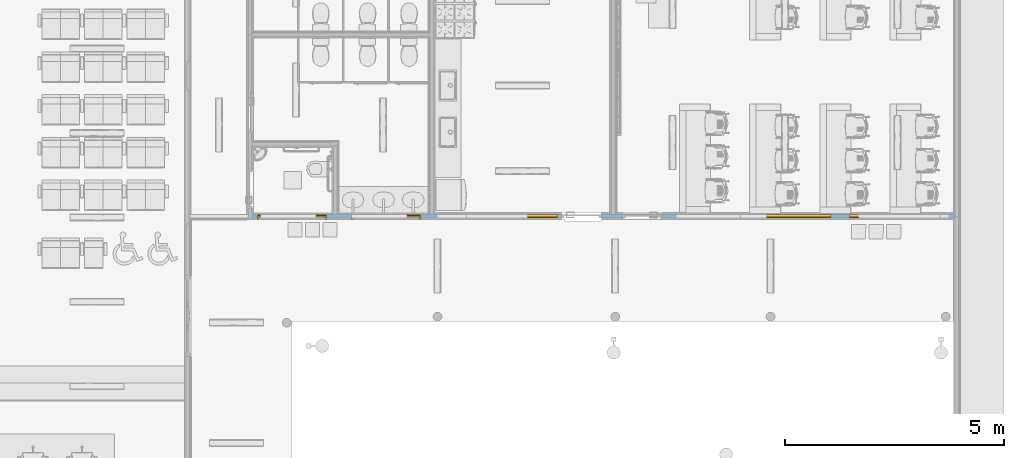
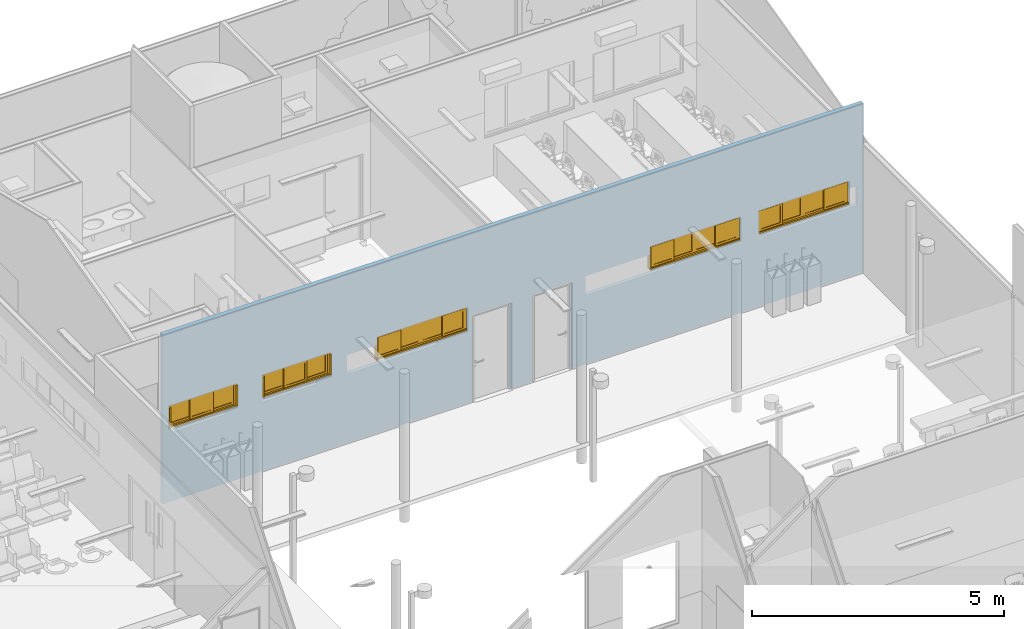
# One storey, part 38 of 155: 5 windows, 12 openings, plus 1 element that does not belong to this part.
"""IFC2X3 building model written with IfcOpenShell, lengths in metres."""

from ifc_helpers import new_model, entity, si_unit, converted_unit, derived_unit, direction, frame, frame_2d, origin, origin_2d_with_axis, place, context, subcontext, project, spatial, polyline, rectangle, outline, extrude, source, transform, mapped, material, material_list, layer, layer_set, layer_usage, type_object, type_shapes, element, fill, save


model = new_model("IFC2X3")

# Units and contexts
model_context = context("Model", 3, precision=1e-05, world=origin(), true_north=direction((6.12303176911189e-17, 1.0)))
body_context = subcontext(model_context, "Body", "Model", "MODEL_VIEW")
ifc_project = project(units=[si_unit("LENGTHUNIT", "METRE"), si_unit("AREAUNIT", "SQUARE_METRE"), si_unit("VOLUMEUNIT", "CUBIC_METRE"), converted_unit("PLANEANGLEUNIT", "DEGREE", entity("IfcRatioMeasure", 0.0174532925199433), si_unit("PLANEANGLEUNIT", "RADIAN"), dimensions=[0, 0, 0, 0, 0, 0, 0]), si_unit("MASSUNIT", "GRAM", prefix="KILO"), derived_unit("MASSDENSITYUNIT", [(si_unit("MASSUNIT", "GRAM", prefix="KILO"), 1), (si_unit("LENGTHUNIT", "METRE"), -3)]), si_unit("TIMEUNIT", "SECOND"), si_unit("FREQUENCYUNIT", "HERTZ"), si_unit("THERMODYNAMICTEMPERATUREUNIT", "DEGREE_CELSIUS"), derived_unit("THERMALTRANSMITTANCEUNIT", [(si_unit("MASSUNIT", "GRAM", prefix="KILO"), 1), (si_unit("THERMODYNAMICTEMPERATUREUNIT", "KELVIN"), -1), (si_unit("TIMEUNIT", "SECOND"), -3)]), derived_unit("VOLUMETRICFLOWRATEUNIT", [(si_unit("LENGTHUNIT", "METRE"), 3), (si_unit("TIMEUNIT", "SECOND"), -1)]), si_unit("ELECTRICCURRENTUNIT", "AMPERE"), si_unit("ELECTRICVOLTAGEUNIT", "VOLT"), si_unit("POWERUNIT", "WATT"), si_unit("FORCEUNIT", "NEWTON", prefix="KILO"), si_unit("ILLUMINANCEUNIT", "LUX"), si_unit("LUMINOUSFLUXUNIT", "LUMEN"), si_unit("LUMINOUSINTENSITYUNIT", "CANDELA"), derived_unit("USERDEFINED", [(si_unit("MASSUNIT", "GRAM", prefix="KILO"), -1), (si_unit("LENGTHUNIT", "METRE"), -2), (si_unit("TIMEUNIT", "SECOND"), 3), (si_unit("LUMINOUSFLUXUNIT", "LUMEN"), 1)]), derived_unit("LINEARVELOCITYUNIT", [(si_unit("LENGTHUNIT", "METRE"), 1), (si_unit("TIMEUNIT", "SECOND"), -1)]), si_unit("PRESSUREUNIT", "PASCAL"), derived_unit("USERDEFINED", [(si_unit("LENGTHUNIT", "METRE"), -2), (si_unit("MASSUNIT", "GRAM", prefix="KILO"), 1), (si_unit("TIMEUNIT", "SECOND"), -2)])], contexts=[model_context])

# Site, building, storey
site_placement = place(None, frame((26.9889013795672, -17.5624287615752, 0.0)))
site = spatial("IfcSite", under=ifc_project, at=site_placement, Name="Default", CompositionType="ELEMENT")
building_placement = place(site_placement, origin())
building = spatial("IfcBuilding", under=site, at=building_placement, Name="C. C. L. Monsenhor Antônio Sampaio", CompositionType="ELEMENT")
storey_placement = place(building_placement, frame((0.0, 0.0, 1.19999999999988)))
storey = spatial("IfcBuildingStorey", under=building, at=storey_placement, Name="Nível 1.2", CompositionType="ELEMENT", Elevation=1.19999999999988)

# Wall, openings, windows
ifc_material_1 = material(Name="ALVENARIA")
ifc_layer = layer(ifc_material_1, 0.09)
ifc_layer_set = layer_set([ifc_layer], Name="Parede básica:ENucleo parede 15cm")
ifc_layer_usage = layer_usage(ifc_layer_set, "AXIS2", "POSITIVE", -0.045)
wall_type = type_object("IfcWallType", Name="Parede básica:ENucleo parede 15cm", PredefinedType="STANDARD", material=ifc_layer_set)
wall_placement = place(storey_placement, frame((-4.45055229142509, -16.8280663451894, 0.0)))
wall = element("IfcWallStandardCase", 1, at=wall_placement, inside=storey, type_object=wall_type, material=ifc_layer_usage, Name="Parede básica:ENucleo parede 15cm", ObjectType="Parede básica:ENucleo parede 15cm", context=body_context, shape_type="SweptSolid", body=[
    extrude(rectangle(XDim=16.0599999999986, YDim=0.0900000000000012, at=frame_2d((8.02999999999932, 6.59194920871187e-17), x_axis=(-1.0, 0.0))), origin(), (0.0, 0.0, 1.0), 4.10000000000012),
])
opening_1_placement = place(wall_placement, frame((7.08141826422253, -0.0449999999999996, 0.0)))
element("IfcOpeningElement", 2, at=opening_1_placement, cuts=wall, Name="Porta levantamento:90 x 211 AZUL:1", ObjectType="Opening", context=body_context, shape_type="SweptSolid", body=[
    extrude(rectangle(XDim=2.09999999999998, YDim=0.9, at=frame_2d((1.04999999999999, 0.45), x_axis=(1.0, 0.0))), frame((0.0, 0.0, 0.0), z_axis=(0.0, 1.0, 0.0), x_axis=(0.0, 0.0, 1.0)), (0.0, 0.0, 1.0), 0.09),
])
opening_2_placement = place(wall_placement, frame((8.47141826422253, -0.0449999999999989, 0.0)))
element("IfcOpeningElement", 3, at=opening_2_placement, cuts=wall, Name="Porta levantamento:90 x 211 AZUL:1", ObjectType="Opening", context=body_context, shape_type="SweptSolid", body=[
    extrude(rectangle(XDim=2.09999999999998, YDim=0.9, at=frame_2d((1.04999999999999, 0.450000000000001), x_axis=(1.0, 0.0))), frame((0.0, 0.0, 0.0), z_axis=(0.0, 1.0, 0.0), x_axis=(0.0, 0.0, 1.0)), (0.0, 0.0, 1.0), 0.09),
])
opening_3_placement = place(wall_placement, frame((1.70000268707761, 0.0449999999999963, 1.76500000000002)))
opening_3 = element("IfcOpeningElement", 4, at=opening_3_placement, cuts=wall, Name="Janela 150x1:150 x 50:1", ObjectType="Opening", context=body_context, shape_type="SweptSolid", body=[
    extrude(rectangle(XDim=0.570000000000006, YDim=1.56999999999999, at=frame_2d((0.285000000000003, 0.784999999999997), x_axis=(1.0, 0.0))), frame((0.0, 0.0, 0.0), z_axis=(0.0, -1.0, 0.0), x_axis=(0.0, 0.0, 1.0)), (0.0, 0.0, 1.0), 0.09),
])
opening_4_placement = place(wall_placement, frame((4.45055229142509, 16.8280663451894, 0.0)))
element("IfcOpeningElement", 5, at=opening_4_placement, cuts=wall, Name="Parede básica:ENucleo parede 15cm", ObjectType="Opening", context=body_context, shape_type="SweptSolid", body=[
    extrude(rectangle(XDim=0.47000000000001, YDim=1.26999999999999, at=frame_2d((2.77555756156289e-16, 0.0), x_axis=(0.0, 1.0))), frame((-3.6255522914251, -18.3070663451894, 1.90000000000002), z_axis=(0.0, 1.0, 0.0), x_axis=(-1.0, 0.0, 0.0)), (0.0, 0.0, 1.0), 3.048),
])
opening_5_placement = place(wall_placement, frame((3.8500053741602, 0.0449999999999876, 1.76500000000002)))
opening_5 = element("IfcOpeningElement", 6, at=opening_5_placement, cuts=wall, Name="Janela 150x1:150 x 50:1", ObjectType="Opening", context=body_context, shape_type="SweptSolid", body=[
    extrude(rectangle(XDim=0.570000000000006, YDim=1.56999999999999, at=frame_2d((0.285000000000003, 0.784999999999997), x_axis=(1.0, 0.0))), frame((0.0, 0.0, 0.0), z_axis=(0.0, -1.0, 0.0), x_axis=(0.0, 0.0, 1.0)), (0.0, 0.0, 1.0), 0.09),
])
opening_6_placement = place(wall_placement, frame((4.45055229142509, 16.8280663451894, 0.0)))
element("IfcOpeningElement", 7, at=opening_6_placement, cuts=wall, Name="Parede básica:ENucleo parede 15cm", ObjectType="Opening", context=body_context, shape_type="SweptSolid", body=[
    extrude(rectangle(XDim=0.47000000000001, YDim=1.26999999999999, at=frame_2d((2.22044604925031e-16, 0.0), x_axis=(0.0, 1.0))), frame((-1.5455522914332, -18.3070663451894, 1.90000000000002), z_axis=(0.0, 1.0, 0.0), x_axis=(-1.0, 0.0, 0.0)), (0.0, 0.0, 1.0), 3.048),
])
opening_7_placement = place(wall_placement, frame((6.97641826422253, 0.0449999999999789, 1.76500000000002)))
opening_7 = element("IfcOpeningElement", 8, at=opening_7_placement, cuts=wall, Name="Janela 200x110:200 x 50:1", ObjectType="Opening", context=body_context, shape_type="SweptSolid", body=[
    extrude(rectangle(XDim=0.570000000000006, YDim=2.07, at=frame_2d((0.285000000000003, 1.035), x_axis=(1.0, 0.0))), frame((0.0, 0.0, 0.0), z_axis=(0.0, -1.0, 0.0), x_axis=(0.0, 0.0, 1.0)), (0.0, 0.0, 1.0), 0.09),
])
opening_8_placement = place(wall_placement, frame((4.45055229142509, 16.8280663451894, 0.0)))
element("IfcOpeningElement", 9, at=opening_8_placement, cuts=wall, Name="Parede básica:ENucleo parede 15cm", ObjectType="Opening", context=body_context, shape_type="SweptSolid", body=[
    extrude(rectangle(XDim=0.470000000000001, YDim=2.06999999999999, at=frame_2d((0.0, 0.0), x_axis=(0.0, 1.0))), frame((0.811164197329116, -18.3070663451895, 1.90000000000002), z_axis=(0.0, 1.0, 0.0), x_axis=(-1.0, 0.0, 0.0)), (0.0, 0.0, 1.0), 3.048),
])
opening_9_placement = place(wall_placement, frame((15.7251682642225, 0.0449999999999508, 1.76500000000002)))
opening_9 = element("IfcOpeningElement", 10, at=opening_9_placement, cuts=wall, Name="Janela 200x110:200 x 50:1", ObjectType="Opening", context=body_context, shape_type="SweptSolid", body=[
    extrude(rectangle(XDim=0.570000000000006, YDim=2.07, at=frame_2d((0.285000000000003, 1.035), x_axis=(1.0, 0.0))), frame((0.0, 0.0, 0.0), z_axis=(0.0, -1.0, 0.0), x_axis=(0.0, 0.0, 1.0)), (0.0, 0.0, 1.0), 0.09),
])
opening_10_placement = place(wall_placement, frame((4.45055229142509, 16.8280663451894, 0.0)))
element("IfcOpeningElement", 11, at=opening_10_placement, cuts=wall, Name="Parede básica:ENucleo parede 15cm", ObjectType="Opening", context=body_context, shape_type="SweptSolid", body=[
    extrude(rectangle(XDim=0.470000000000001, YDim=2.06999999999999, at=origin_2d_with_axis()), frame((10.4391494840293, -18.3970663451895, 1.90000000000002), z_axis=(0.0, 1.0, 0.0), x_axis=(0.0, 0.0, 1.0)), (0.0, 0.0, 1.0), 3.048),
])
opening_11_placement = place(wall_placement, frame((13.2351682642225, 0.0449999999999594, 1.76500000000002)))
opening_11 = element("IfcOpeningElement", 12, at=opening_11_placement, cuts=wall, Name="Janela 200x110:200 x 50:1", ObjectType="Opening", context=body_context, shape_type="SweptSolid", body=[
    extrude(rectangle(XDim=0.570000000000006, YDim=2.07, at=frame_2d((0.285000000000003, 1.035), x_axis=(1.0, 0.0))), frame((0.0, 0.0, 0.0), z_axis=(0.0, -1.0, 0.0), x_axis=(0.0, 0.0, 1.0)), (0.0, 0.0, 1.0), 0.09),
])
opening_12_placement = place(wall_placement, frame((4.45055229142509, 16.8280663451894, 0.0)))
element("IfcOpeningElement", 13, at=opening_12_placement, cuts=wall, Name="Parede básica:ENucleo parede 15cm", ObjectType="Opening", context=body_context, shape_type="SweptSolid", body=[
    extrude(rectangle(XDim=0.470000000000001, YDim=2.06999999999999, at=frame_2d((0.0, -4.44089209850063e-16), x_axis=(1.0, 0.0))), frame((6.26914948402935, -18.3970663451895, 1.90000000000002), z_axis=(0.0, 1.0, 0.0), x_axis=(0.0, 0.0, 1.0)), (0.0, 0.0, 1.0), 3.048),
])
ifc_material_2 = material(Name="VIDRO COMUM LISO VERDE")
ifc_material_3 = material(Name="ALUMÍNIO COM PINTURA ELETROSTÁTICA BRANCA")
ifc_material_list_1 = material_list([ifc_material_2, ifc_material_3])
ifc_material_list_2 = material_list([ifc_material_2, ifc_material_3])
window_style_1 = type_object("IfcWindowStyle", Name="150 x 50", ConstructionType="NOTDEFINED", OperationType="NOTDEFINED", ParameterTakesPrecedence=False, Sizeable=False, material=ifc_material_list_2)
shared_shape_1 = source(origin(), body_context, "Body", "SweptSolid", [
    extrude(rectangle(XDim=0.00599999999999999, YDim=0.43333, at=frame_2d((0.0, -2.77555756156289e-17), x_axis=(1.0, 0.0))), frame((1.00958205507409, 0.00574832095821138, 0.0849999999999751), z_axis=(0.0, 0.0, 1.0), x_axis=(0.0, -1.0, 0.0)), (0.0, 0.0, 1.0), 0.4),
    extrude(outline(polyline([(-0.250000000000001, -0.266665), (0.250000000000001, -0.266665), (0.250000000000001, 0.266665), (-0.250000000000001, 0.266665), (-0.250000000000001, -0.266665)]), holes=[polyline([(-0.200000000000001, -0.216665), (-0.200000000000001, 0.216665), (0.200000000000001, 0.216665), (0.200000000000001, -0.216665), (-0.200000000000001, -0.216665)])]), frame((1.00958205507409, 0.0182483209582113, 0.284999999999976), z_axis=(0.0, -1.0, 0.0), x_axis=(0.0, 0.0, -1.0)), (0.0, 0.0, 1.0), 0.025),
    extrude(rectangle(XDim=0.43333, YDim=0.00599999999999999, at=origin_2d_with_axis()), frame((0.526192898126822, 0.0307483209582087, 0.0849999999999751), z_axis=(0.0, 0.0, 1.0), x_axis=(-1.0, 0.0, 0.0)), (0.0, 0.0, 1.0), 0.4),
    extrude(outline(polyline([(-0.266665, -0.250000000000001), (0.266665, -0.250000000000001), (0.266665, 0.250000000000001), (-0.266665, 0.250000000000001), (-0.266665, -0.250000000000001)]), holes=[polyline([(-0.216665, -0.200000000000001), (-0.216665, 0.200000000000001), (0.216665, 0.200000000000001), (0.216665, -0.200000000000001), (-0.216665, -0.200000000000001)])]), frame((0.526192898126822, 0.0432483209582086, 0.284999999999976), z_axis=(0.0, -1.0, 0.0), x_axis=(-1.0, 0.0, 0.0)), (0.0, 0.0, 1.0), 0.025),
    extrude(rectangle(XDim=0.43333, YDim=0.00599999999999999, at=frame_2d((-2.77555756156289e-17, 0.0), x_axis=(1.0, 0.0))), frame((0.0428037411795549, 0.00574832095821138, 0.0849999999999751), z_axis=(0.0, 0.0, 1.0), x_axis=(-1.0, 0.0, 0.0)), (0.0, 0.0, 1.0), 0.4),
    extrude(outline(polyline([(-0.266665, -0.250000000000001), (0.266665, -0.250000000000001), (0.266665, 0.250000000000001), (-0.266665, 0.250000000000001), (-0.266665, -0.250000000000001)]), holes=[polyline([(-0.216665, -0.200000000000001), (-0.216665, 0.200000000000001), (0.216665, 0.200000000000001), (0.216665, -0.200000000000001), (-0.216665, -0.200000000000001)])]), frame((0.0428037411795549, 0.0182483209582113, 0.284999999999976), z_axis=(0.0, -1.0, 0.0), x_axis=(-1.0, 0.0, 0.0)), (0.0, 0.0, 1.0), 0.025),
    extrude(rectangle(XDim=0.0349999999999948, YDim=0.12, at=origin_2d_with_axis()), frame((-0.241307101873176, 0.0582483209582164, 0.0349999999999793), z_axis=(0.0, 0.0, 1.0), x_axis=(-1.0, 0.0, 0.0)), (0.0, 0.0, 1.0), 0.500000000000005),
    extrude(rectangle(XDim=0.0349999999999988, YDim=0.12, at=origin_2d_with_axis()), frame((1.29369289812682, 0.0582483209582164, 0.0349999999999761), z_axis=(0.0, 0.0, 1.0), x_axis=(-1.0, 0.0, 0.0)), (0.0, 0.0, 1.0), 0.500000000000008),
    extrude(rectangle(XDim=1.57, YDim=0.06, at=origin_2d_with_axis()), frame((0.526192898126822, 0.0282483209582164, 0.0), z_axis=(0.0, 0.0, 1.0), x_axis=(-1.0, 0.0, 0.0)), (0.0, 0.0, 1.0), 0.0349999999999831),
    extrude(rectangle(XDim=1.56999999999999, YDim=0.03, at=origin_2d_with_axis()), frame((0.526192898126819, 0.0132483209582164, 0.534999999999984), z_axis=(0.0, 0.0, 1.0), x_axis=(-1.0, 0.0, 0.0)), (0.0, 0.0, 1.0), 0.0350000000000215),
])
type_shapes(window_style_1, [shared_shape_1])
window_1_placement = place(opening_3_placement, frame((-0.258807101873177, -0.00175167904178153, 0.0), z_axis=(0.0, 0.0, 1.0), x_axis=(-1.0, 0.0, 0.0)))
window_1 = element("IfcWindow", 14, at=window_1_placement, inside=storey, type_object=window_style_1, material=ifc_material_list_1, Name="Janela 150x1:150 x 50", ObjectType="150 x 50", OverallHeight=0.570000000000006, OverallWidth=1.56999999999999, context=body_context, shape_type="MappedRepresentation", body=[
    mapped(shared_shape_1, transform((0.0, 0.0, 0.0), scale=1.0)),
])
fill(opening_3, window_1)
ifc_material_list_3 = material_list([ifc_material_2, ifc_material_3])
window_2_placement = place(opening_5_placement, frame((-0.258807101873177, -0.00175167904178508, 0.0), z_axis=(0.0, 0.0, 1.0), x_axis=(-1.0, 0.0, 0.0)))
window_2 = element("IfcWindow", 15, at=window_2_placement, inside=storey, type_object=window_style_1, material=ifc_material_list_3, Name="Janela 150x1:150 x 50", ObjectType="150 x 50", OverallHeight=0.570000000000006, OverallWidth=1.56999999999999, context=body_context, shape_type="MappedRepresentation", body=[
    mapped(shared_shape_1, transform((0.0, 0.0, 0.0), scale=1.0)),
])
fill(opening_5, window_2)
ifc_material_list_4 = material_list([ifc_material_2, ifc_material_3])
ifc_material_list_5 = material_list([ifc_material_2, ifc_material_3])
window_style_2 = type_object("IfcWindowStyle", Name="200 x 50", ConstructionType="NOTDEFINED", OperationType="NOTDEFINED", ParameterTakesPrecedence=False, Sizeable=False, material=ifc_material_list_5)
shared_shape_2 = source(origin(), body_context, "Body", "SweptSolid", [
    extrude(rectangle(XDim=0.425, YDim=0.00599999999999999, at=origin_2d_with_axis()), frame((1.7725, 0.058375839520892, 0.0849999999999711), z_axis=(0.0, 0.0, 1.0), x_axis=(-1.0, 0.0, 0.0)), (0.0, 0.0, 1.0), 0.4),
    extrude(outline(polyline([(-0.250000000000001, -0.2625), (0.250000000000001, -0.2625), (0.250000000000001, 0.2625), (-0.250000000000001, 0.2625), (-0.250000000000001, -0.2625)]), holes=[polyline([(-0.200000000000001, -0.2125), (-0.200000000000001, 0.2125), (0.200000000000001, 0.2125), (0.200000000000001, -0.2125), (-0.200000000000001, -0.2125)])]), frame((1.7725, 0.0458758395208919, 0.284999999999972), z_axis=(0.0, 1.0, 0.0), x_axis=(0.0, 0.0, -1.0)), (0.0, 0.0, 1.0), 0.025),
    extrude(rectangle(XDim=0.00599999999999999, YDim=0.425, at=origin_2d_with_axis()), frame((1.2975, 0.0333758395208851, 0.0849999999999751), z_axis=(0.0, 0.0, 1.0), x_axis=(0.0, -1.0, 0.0)), (0.0, 0.0, 1.0), 0.4),
    extrude(outline(polyline([(-0.2625, -0.250000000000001), (0.2625, -0.250000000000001), (0.2625, 0.250000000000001), (-0.2625, 0.250000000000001), (-0.2625, -0.250000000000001)]), holes=[polyline([(-0.2125, -0.200000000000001), (-0.2125, 0.200000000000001), (0.2125, 0.200000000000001), (0.2125, -0.200000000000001), (-0.2125, -0.200000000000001)])]), frame((1.2975, 0.020875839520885, 0.284999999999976), z_axis=(0.0, 1.0, 0.0), x_axis=(1.0, 0.0, 0.0)), (0.0, 0.0, 1.0), 0.025),
    extrude(rectangle(XDim=0.00599999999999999, YDim=0.425, at=frame_2d((0.0, 2.77555756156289e-17), x_axis=(1.0, 0.0))), frame((0.297499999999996, 0.058375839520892, 0.0849999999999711), z_axis=(0.0, 0.0, 1.0), x_axis=(0.0, -1.0, 0.0)), (0.0, 0.0, 1.0), 0.4),
    extrude(outline(polyline([(-0.2625, -0.250000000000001), (0.2625, -0.250000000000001), (0.2625, 0.250000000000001), (-0.2625, 0.250000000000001), (-0.2625, -0.250000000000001)]), holes=[polyline([(-0.2125, -0.200000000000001), (-0.2125, 0.200000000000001), (0.2125, 0.200000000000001), (0.2125, -0.200000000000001), (-0.2125, -0.200000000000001)])]), frame((0.297499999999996, 0.0458758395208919, 0.284999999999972), z_axis=(0.0, 1.0, 0.0), x_axis=(1.0, 0.0, 0.0)), (0.0, 0.0, 1.0), 0.025),
    extrude(rectangle(XDim=0.425, YDim=0.00599999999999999, at=origin_2d_with_axis()), frame((0.772499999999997, 0.0333758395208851, 0.0849999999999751), z_axis=(0.0, 0.0, 1.0), x_axis=(-1.0, 0.0, 0.0)), (0.0, 0.0, 1.0), 0.4),
    extrude(outline(polyline([(-0.250000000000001, -0.2625), (0.250000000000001, -0.2625), (0.250000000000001, 0.2625), (-0.250000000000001, 0.2625), (-0.250000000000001, -0.2625)]), holes=[polyline([(-0.200000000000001, -0.2125), (-0.200000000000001, 0.2125), (0.200000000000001, 0.2125), (0.200000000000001, -0.2125), (-0.200000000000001, -0.2125)])]), frame((0.772499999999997, 0.020875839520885, 0.284999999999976), z_axis=(0.0, 1.0, 0.0), x_axis=(0.0, 0.0, -1.0)), (0.0, 0.0, 1.0), 0.025),
    extrude(rectangle(XDim=0.06, YDim=0.0349999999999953, at=origin_2d_with_axis()), frame((2.05249999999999, 0.03, 0.0349999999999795), z_axis=(0.0, 0.0, 1.0), x_axis=(0.0, -1.0, 0.0)), (0.0, 0.0, 1.0), 0.500000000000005),
    extrude(rectangle(XDim=0.06, YDim=0.0349999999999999, at=origin_2d_with_axis()), frame((0.0174999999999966, 0.03, 0.0349999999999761), z_axis=(0.0, 0.0, 1.0), x_axis=(0.0, -1.0, 0.0)), (0.0, 0.0, 1.0), 0.500000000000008),
    extrude(rectangle(XDim=0.09, YDim=2.07, at=origin_2d_with_axis()), frame((1.035, 0.045, 0.0), z_axis=(0.0, 0.0, 1.0), x_axis=(0.0, -1.0, 0.0)), (0.0, 0.0, 1.0), 0.0349999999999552),
    extrude(rectangle(XDim=0.06, YDim=2.07, at=origin_2d_with_axis()), frame((1.035, 0.03, 0.534999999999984), z_axis=(0.0, 0.0, 1.0), x_axis=(0.0, -1.0, 0.0)), (0.0, 0.0, 1.0), 0.0350000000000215),
])
type_shapes(window_style_2, [shared_shape_2])
window_3_placement = place(opening_7_placement, frame((0.0, 0.0, 0.0), z_axis=(0.0, 0.0, 1.0), x_axis=(-1.0, 0.0, 0.0)))
window_3 = element("IfcWindow", 16, at=window_3_placement, inside=storey, type_object=window_style_2, material=ifc_material_list_4, Name="Janela 200x110:200 x 50", ObjectType="200 x 50", OverallHeight=0.570000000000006, OverallWidth=2.07, context=body_context, shape_type="MappedRepresentation", body=[
    mapped(shared_shape_2, transform((0.0, 0.0, 0.0), scale=1.0)),
])
fill(opening_7, window_3)
ifc_material_list_6 = material_list([ifc_material_2, ifc_material_3])
window_4_placement = place(opening_9_placement, frame((0.0, 0.0, 0.0), z_axis=(0.0, 0.0, 1.0), x_axis=(-1.0, 0.0, 0.0)))
window_4 = element("IfcWindow", 17, at=window_4_placement, inside=storey, type_object=window_style_2, material=ifc_material_list_6, Name="Janela 200x110:200 x 50", ObjectType="200 x 50", OverallHeight=0.570000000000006, OverallWidth=2.07, context=body_context, shape_type="MappedRepresentation", body=[
    mapped(shared_shape_2, transform((0.0, 0.0, 0.0), scale=1.0)),
])
fill(opening_9, window_4)
ifc_material_list_7 = material_list([ifc_material_2, ifc_material_3])
window_5_placement = place(opening_11_placement, frame((0.0, 0.0, 0.0), z_axis=(0.0, 0.0, 1.0), x_axis=(-1.0, 0.0, 0.0)))
window_5 = element("IfcWindow", 18, at=window_5_placement, inside=storey, type_object=window_style_2, material=ifc_material_list_7, Name="Janela 200x110:200 x 50", ObjectType="200 x 50", OverallHeight=0.570000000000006, OverallWidth=2.07, context=body_context, shape_type="MappedRepresentation", body=[
    mapped(shared_shape_2, transform((0.0, 0.0, 0.0), scale=1.0)),
])
fill(opening_11, window_5)

save(model, "model.ifc")
